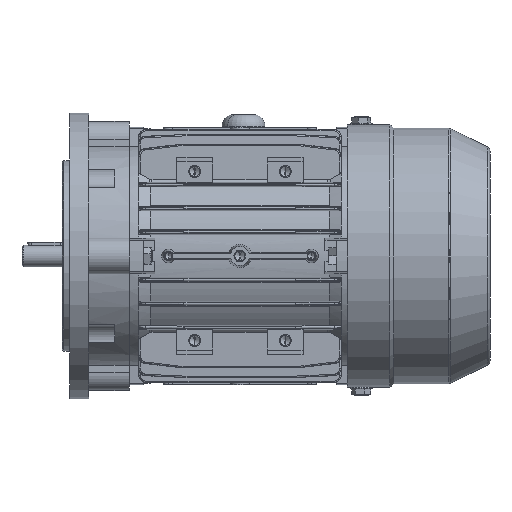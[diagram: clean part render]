
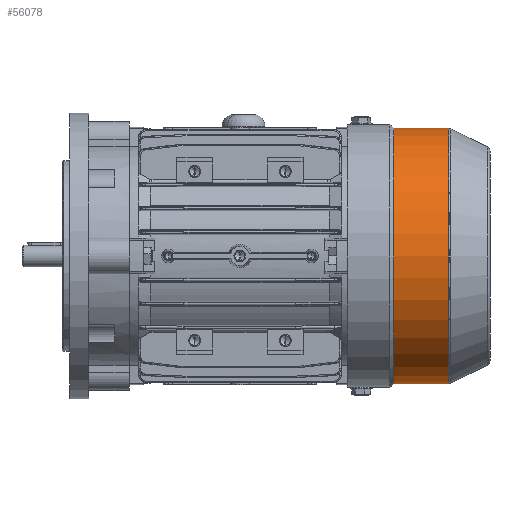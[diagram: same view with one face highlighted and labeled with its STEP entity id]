
A CAD part, front view. The second image highlights one B-rep face of the part: STEP entity #56078.
In plain terms, the highlighted cylindrical face has radius 53.6 mm (diameter 107.2 mm), a partial arc.
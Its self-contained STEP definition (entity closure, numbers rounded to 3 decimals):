
#2373 = VERTEX_POINT ( 'NONE', #4377 ) ;
#4377 = CARTESIAN_POINT ( 'NONE',  ( 14.732, 0., -53.6 ) ) ;
#9971 = FACE_OUTER_BOUND ( 'NONE', #95190, .T. ) ;
#14466 = CIRCLE ( 'NONE', #25530, 53.6 ) ;
#15112 = ORIENTED_EDGE ( 'NONE', *, *, #82184, .F. ) ;
#17581 = AXIS2_PLACEMENT_3D ( 'NONE', #43974, #37169, #67149 ) ;
#18069 = ORIENTED_EDGE ( 'NONE', *, *, #92900, .T. ) ;
#22982 = DIRECTION ( 'NONE',  ( 0., 0., 1. ) ) ;
#23746 = VERTEX_POINT ( 'NONE', #90248 ) ;
#25530 = AXIS2_PLACEMENT_3D ( 'NONE', #28021, #79351, #27707 ) ;
#27707 = DIRECTION ( 'NONE',  ( 0., 0., -1. ) ) ;
#28021 = CARTESIAN_POINT ( 'NONE',  ( 14.732, 0., 0. ) ) ;
#28737 = CARTESIAN_POINT ( 'NONE',  ( 14.732, 0., 53.6 ) ) ;
#30362 = ORIENTED_EDGE ( 'NONE', *, *, #36163, .T. ) ;
#33097 = CYLINDRICAL_SURFACE ( 'NONE', #48067, 53.6 ) ;
#36163 = EDGE_CURVE ( 'NONE', #58592, #2373, #14466, .T. ) ;
#37169 = DIRECTION ( 'NONE',  ( -1., 0., 0. ) ) ;
#43974 = CARTESIAN_POINT ( 'NONE',  ( 38., 0., 0. ) ) ;
#45456 = LINE ( 'NONE', #86453, #51185 ) ;
#48067 = AXIS2_PLACEMENT_3D ( 'NONE', #90109, #89131, #22982 ) ;
#49683 = ORIENTED_EDGE ( 'NONE', *, *, #84740, .T. ) ;
#51185 = VECTOR ( 'NONE', #64459, 1000. ) ;
#56078 = ADVANCED_FACE ( 'NONE', ( #9971 ), #33097, .T. ) ;
#58592 = VERTEX_POINT ( 'NONE', #28737 ) ;
#64459 = DIRECTION ( 'NONE',  ( -1., 0., 0. ) ) ;
#65338 = DIRECTION ( 'NONE',  ( -1., 0., 0. ) ) ;
#66322 = VECTOR ( 'NONE', #65338, 1000. ) ;
#67149 = DIRECTION ( 'NONE',  ( 0., 0., 1. ) ) ;
#70457 = VERTEX_POINT ( 'NONE', #87891 ) ;
#70996 = LINE ( 'NONE', #87325, #66322 ) ;
#79351 = DIRECTION ( 'NONE',  ( 1., 0., 0. ) ) ;
#82184 = EDGE_CURVE ( 'NONE', #23746, #2373, #70996, .T. ) ;
#84740 = EDGE_CURVE ( 'NONE', #70457, #58592, #45456, .T. ) ;
#86453 = CARTESIAN_POINT ( 'NONE',  ( 0., 0., 53.6 ) ) ;
#87325 = CARTESIAN_POINT ( 'NONE',  ( 0., 0., -53.6 ) ) ;
#87891 = CARTESIAN_POINT ( 'NONE',  ( 38., 0., 53.6 ) ) ;
#89131 = DIRECTION ( 'NONE',  ( -1., 0., 0. ) ) ;
#90109 = CARTESIAN_POINT ( 'NONE',  ( 0., 0., 0. ) ) ;
#90248 = CARTESIAN_POINT ( 'NONE',  ( 38., 0., -53.6 ) ) ;
#91756 = CIRCLE ( 'NONE', #17581, 53.6 ) ;
#92900 = EDGE_CURVE ( 'NONE', #23746, #70457, #91756, .T. ) ;
#95190 = EDGE_LOOP ( 'NONE', ( #15112, #18069, #49683, #30362 ) ) ;
